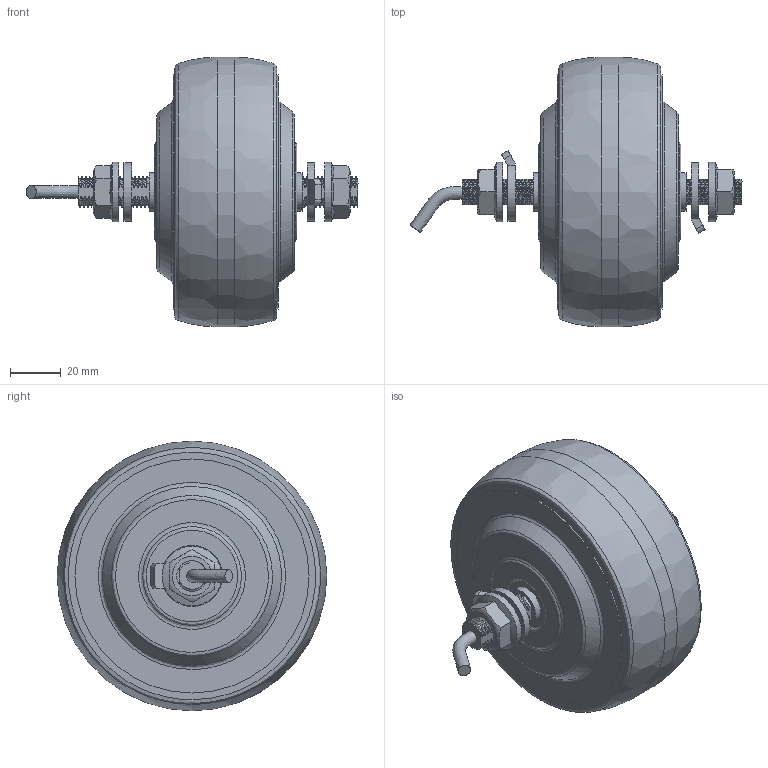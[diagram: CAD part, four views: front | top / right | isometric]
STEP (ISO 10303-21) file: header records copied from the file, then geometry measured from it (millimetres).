
FILE_DESCRIPTION(/* description */ (''),/* implementation_level */ '2;1');
FILE_NAME(/* name */ '4寸轮毂电机.stp',/* time_stamp */ '2025-01-15T16:30:55+08:00',/* author */ (''),/* organization */ (''),/* preprocessor_version */ 'ST-DEVELOPER v16.7',/* originating_system */ 'SIEMENS PLM Software NX 12.0',/* authorisation */ '');
FILE_SCHEMA (('AUTOMOTIVE_DESIGN { 1 0 10303 214 3 1 1 1 }'));
Products named in the file (1): Li YCC48C1F940x8
Bounding box: 130.49 x 106 x 106 mm (x, y, z)
Volume: 409103.9 mm3; surface area: 39051 mm2
Topology: 5 solids, 5 shells, 373 faces, 1039 edges, 690 vertices
Faces by surface type: cylinder 158, bspline 154, plane 55, cone 4, torus 2
Full cylindrical faces by diameter (mm): 12 x2, 15 x2, 23.5 x2, 92 x2, 106 x1
Entity records: 102070 total; most frequent: CARTESIAN_POINT 94215, ORIENTED_EDGE 2002, EDGE_CURVE 1001, DIRECTION 889, VERTEX_POINT 682, B_SPLINE_CURVE_WITH_KNOTS 608, EDGE_LOOP 425, ADVANCED_FACE 373
